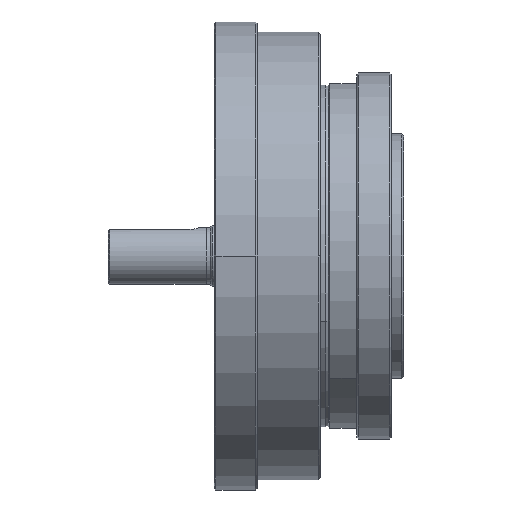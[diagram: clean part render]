
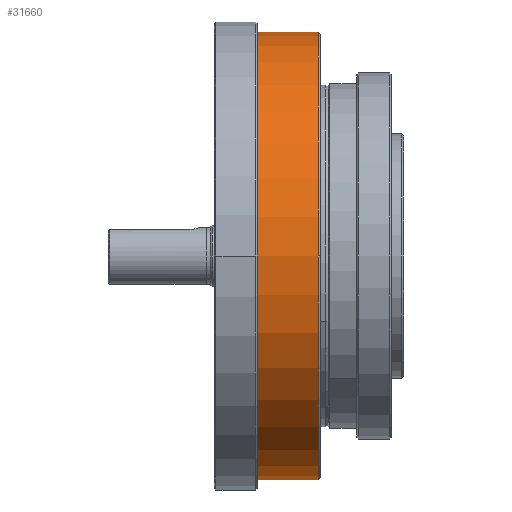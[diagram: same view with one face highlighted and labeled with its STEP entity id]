
A CAD part, front view. The second image highlights one B-rep face of the part: STEP entity #31660.
In plain terms, the highlighted cylindrical face has radius 55 mm (diameter 110 mm), a partial arc.
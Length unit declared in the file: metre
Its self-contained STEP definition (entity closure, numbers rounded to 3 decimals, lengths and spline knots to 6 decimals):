
#265 = DIRECTION ( 'NONE',  ( 0., 0., 1. ) ) ;
#1404 = CARTESIAN_POINT ( 'NONE',  ( 0.002033, 0., 0.055 ) ) ;
#1971 = DIRECTION ( 'NONE',  ( 1., 0., 0. ) ) ;
#2702 = LINE ( 'NONE', #58552, #22273 ) ;
#3192 = CARTESIAN_POINT ( 'NONE',  ( 0.0255, -0.055, 0. ) ) ;
#4861 = DIRECTION ( 'NONE',  ( -1., 0., 0. ) ) ;
#5266 = AXIS2_PLACEMENT_3D ( 'NONE', #44023, #1971, #58420 ) ;
#6597 = LINE ( 'NONE', #1404, #44295 ) ;
#10948 = CIRCLE ( 'NONE', #57993, 0.055 ) ;
#11292 = VERTEX_POINT ( 'NONE', #3192 ) ;
#11956 = CIRCLE ( 'NONE', #21747, 0.055 ) ;
#12250 = CARTESIAN_POINT ( 'NONE',  ( 0.0078, 0., -0.055 ) ) ;
#12792 = CIRCLE ( 'NONE', #59815, 0.055 ) ;
#13168 = VERTEX_POINT ( 'NONE', #33379 ) ;
#13189 = DIRECTION ( 'NONE',  ( 0., 0., 1. ) ) ;
#13452 = CYLINDRICAL_SURFACE ( 'NONE', #29490, 0.055 ) ;
#13844 = VERTEX_POINT ( 'NONE', #12250 ) ;
#14736 = VERTEX_POINT ( 'NONE', #48947 ) ;
#16257 = EDGE_LOOP ( 'NONE', ( #56594, #54582, #30145, #31918, #25833, #28647 ) ) ;
#19266 = VERTEX_POINT ( 'NONE', #22282 ) ;
#21747 = AXIS2_PLACEMENT_3D ( 'NONE', #36521, #55252, #13189 ) ;
#22273 = VECTOR ( 'NONE', #35221, 1. ) ;
#22282 = CARTESIAN_POINT ( 'NONE',  ( 0.0255, 0., 0.055 ) ) ;
#25833 = ORIENTED_EDGE ( 'NONE', *, *, #26276, .T. ) ;
#26276 = EDGE_CURVE ( 'NONE', #14736, #58389, #12792, .T. ) ;
#28063 = EDGE_CURVE ( 'NONE', #11292, #19266, #11956, .T. ) ;
#28169 = CARTESIAN_POINT ( 'NONE',  ( 0.002033, 0., 0. ) ) ;
#28647 = ORIENTED_EDGE ( 'NONE', *, *, #35665, .T. ) ;
#29379 = CARTESIAN_POINT ( 'NONE',  ( 0.0078, -0.055, 0. ) ) ;
#29490 = AXIS2_PLACEMENT_3D ( 'NONE', #28169, #4861, #265 ) ;
#30145 = ORIENTED_EDGE ( 'NONE', *, *, #28063, .T. ) ;
#31660 = ADVANCED_FACE ( 'NONE', ( #60723 ), #13452, .T. ) ;
#31918 = ORIENTED_EDGE ( 'NONE', *, *, #50230, .T. ) ;
#33379 = CARTESIAN_POINT ( 'NONE',  ( 0.0255, 0., -0.055 ) ) ;
#35221 = DIRECTION ( 'NONE',  ( -1., 0., 0. ) ) ;
#35665 = EDGE_CURVE ( 'NONE', #58389, #13844, #38595, .T. ) ;
#36521 = CARTESIAN_POINT ( 'NONE',  ( 0.0255, 0., 0. ) ) ;
#38595 = CIRCLE ( 'NONE', #5266, 0.055 ) ;
#41269 = DIRECTION ( 'NONE',  ( 0., 0., 1. ) ) ;
#42044 = CARTESIAN_POINT ( 'NONE',  ( 0.0078, 0., 0. ) ) ;
#42428 = EDGE_CURVE ( 'NONE', #13168, #13844, #2702, .T. ) ;
#44023 = CARTESIAN_POINT ( 'NONE',  ( 0.0078, 0., 0. ) ) ;
#44295 = VECTOR ( 'NONE', #47757, 1. ) ;
#45870 = DIRECTION ( 'NONE',  ( -1., 0., 0. ) ) ;
#46952 = DIRECTION ( 'NONE',  ( 0., 0., 1. ) ) ;
#47081 = CARTESIAN_POINT ( 'NONE',  ( 0.0255, 0., 0. ) ) ;
#47757 = DIRECTION ( 'NONE',  ( -1., 0., 0. ) ) ;
#48947 = CARTESIAN_POINT ( 'NONE',  ( 0.0078, 0., 0.055 ) ) ;
#50230 = EDGE_CURVE ( 'NONE', #19266, #14736, #6597, .T. ) ;
#50510 = EDGE_CURVE ( 'NONE', #13168, #11292, #10948, .T. ) ;
#54582 = ORIENTED_EDGE ( 'NONE', *, *, #50510, .T. ) ;
#55252 = DIRECTION ( 'NONE',  ( -1., 0., 0. ) ) ;
#55264 = DIRECTION ( 'NONE',  ( 1., 0., 0. ) ) ;
#56594 = ORIENTED_EDGE ( 'NONE', *, *, #42428, .F. ) ;
#57993 = AXIS2_PLACEMENT_3D ( 'NONE', #47081, #45870, #41269 ) ;
#58389 = VERTEX_POINT ( 'NONE', #29379 ) ;
#58420 = DIRECTION ( 'NONE',  ( 0., 0., 1. ) ) ;
#58552 = CARTESIAN_POINT ( 'NONE',  ( 0.002033, 0., -0.055 ) ) ;
#59815 = AXIS2_PLACEMENT_3D ( 'NONE', #42044, #55264, #46952 ) ;
#60723 = FACE_OUTER_BOUND ( 'NONE', #16257, .T. ) ;
